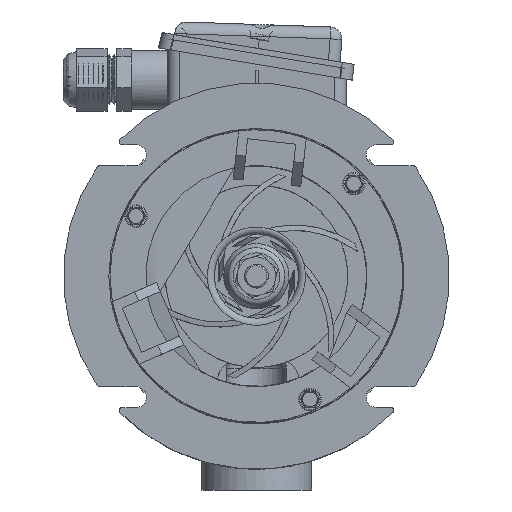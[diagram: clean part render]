
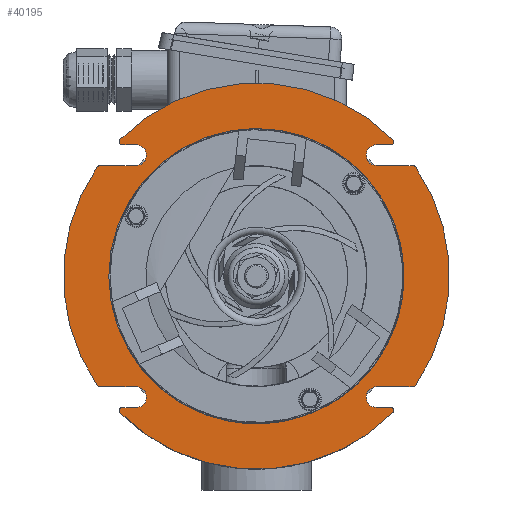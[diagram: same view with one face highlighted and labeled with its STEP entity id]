
A CAD part, front view. The second image highlights one B-rep face of the part: STEP entity #40195.
In plain terms, the highlighted planar face has unit normal (0, -1, 0).
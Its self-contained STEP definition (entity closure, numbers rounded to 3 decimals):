
#1936=FACE_BOUND('',#7091,.T.);
#2868=PLANE('',#43579);
#4795=FACE_OUTER_BOUND('',#7090,.T.);
#7090=EDGE_LOOP('',(#34024,#34025,#34026,#34027,#34028,#34029,#34030,#34031,
#34032,#34033,#34034,#34035,#34036,#34037,#34038,#34039,#34040,#34041,#34042,
#34043,#34044,#34045,#34046,#34047));
#7091=EDGE_LOOP('',(#34048,#34049));
#9865=LINE('',#84085,#12730);
#9868=LINE('',#84095,#12733);
#9869=LINE('',#84099,#12734);
#9870=LINE('',#84107,#12735);
#9871=LINE('',#84111,#12736);
#9872=LINE('',#84119,#12737);
#9873=LINE('',#84123,#12738);
#9874=LINE('',#84131,#12739);
#12730=VECTOR('',#52542,1.);
#12733=VECTOR('',#52551,1.);
#12734=VECTOR('',#52554,1.);
#12735=VECTOR('',#52561,1.);
#12736=VECTOR('',#52564,1.);
#12737=VECTOR('',#52571,1.);
#12738=VECTOR('',#52574,1.);
#12739=VECTOR('',#52581,1.);
#14591=CIRCLE('',#43577,0.1);
#14592=CIRCLE('',#43580,6.5);
#14593=CIRCLE('',#43581,0.1);
#14594=CIRCLE('',#43582,0.35);
#14595=CIRCLE('',#43583,0.1);
#14596=CIRCLE('',#43584,6.5);
#14597=CIRCLE('',#43585,0.1);
#14598=CIRCLE('',#43586,0.35);
#14599=CIRCLE('',#43587,0.1);
#14600=CIRCLE('',#43588,6.5);
#14601=CIRCLE('',#43589,0.1);
#14602=CIRCLE('',#43590,0.35);
#14603=CIRCLE('',#43591,0.1);
#14604=CIRCLE('',#43592,6.5);
#14605=CIRCLE('',#43593,0.1);
#14606=CIRCLE('',#43594,0.35);
#14607=CIRCLE('',#43595,4.97);
#14608=CIRCLE('',#43596,4.97);
#18036=VERTEX_POINT('',#84078);
#18037=VERTEX_POINT('',#84080);
#18038=VERTEX_POINT('',#84084);
#18040=VERTEX_POINT('',#84090);
#18041=VERTEX_POINT('',#84092);
#18042=VERTEX_POINT('',#84094);
#18043=VERTEX_POINT('',#84096);
#18044=VERTEX_POINT('',#84098);
#18045=VERTEX_POINT('',#84100);
#18046=VERTEX_POINT('',#84102);
#18047=VERTEX_POINT('',#84104);
#18048=VERTEX_POINT('',#84106);
#18049=VERTEX_POINT('',#84108);
#18050=VERTEX_POINT('',#84110);
#18051=VERTEX_POINT('',#84112);
#18052=VERTEX_POINT('',#84114);
#18053=VERTEX_POINT('',#84116);
#18054=VERTEX_POINT('',#84118);
#18055=VERTEX_POINT('',#84120);
#18056=VERTEX_POINT('',#84122);
#18057=VERTEX_POINT('',#84124);
#18058=VERTEX_POINT('',#84126);
#18059=VERTEX_POINT('',#84128);
#18060=VERTEX_POINT('',#84130);
#18061=VERTEX_POINT('',#84133);
#18062=VERTEX_POINT('',#84134);
#23483=EDGE_CURVE('',#18036,#18037,#14591,.T.);
#23485=EDGE_CURVE('',#18038,#18037,#9865,.T.);
#23488=EDGE_CURVE('',#18036,#18040,#14592,.T.);
#23489=EDGE_CURVE('',#18041,#18040,#14593,.T.);
#23490=EDGE_CURVE('',#18041,#18042,#9868,.T.);
#23491=EDGE_CURVE('',#18043,#18042,#14594,.T.);
#23492=EDGE_CURVE('',#18043,#18044,#9869,.T.);
#23493=EDGE_CURVE('',#18045,#18044,#14595,.T.);
#23494=EDGE_CURVE('',#18045,#18046,#14596,.T.);
#23495=EDGE_CURVE('',#18047,#18046,#14597,.T.);
#23496=EDGE_CURVE('',#18047,#18048,#9870,.T.);
#23497=EDGE_CURVE('',#18049,#18048,#14598,.T.);
#23498=EDGE_CURVE('',#18049,#18050,#9871,.T.);
#23499=EDGE_CURVE('',#18051,#18050,#14599,.T.);
#23500=EDGE_CURVE('',#18051,#18052,#14600,.T.);
#23501=EDGE_CURVE('',#18053,#18052,#14601,.T.);
#23502=EDGE_CURVE('',#18053,#18054,#9872,.T.);
#23503=EDGE_CURVE('',#18055,#18054,#14602,.T.);
#23504=EDGE_CURVE('',#18055,#18056,#9873,.T.);
#23505=EDGE_CURVE('',#18057,#18056,#14603,.T.);
#23506=EDGE_CURVE('',#18057,#18058,#14604,.T.);
#23507=EDGE_CURVE('',#18059,#18058,#14605,.T.);
#23508=EDGE_CURVE('',#18059,#18060,#9874,.T.);
#23509=EDGE_CURVE('',#18038,#18060,#14606,.T.);
#23510=EDGE_CURVE('',#18061,#18062,#14607,.T.);
#23511=EDGE_CURVE('',#18062,#18061,#14608,.T.);
#34024=ORIENTED_EDGE('',*,*,#23483,.F.);
#34025=ORIENTED_EDGE('',*,*,#23488,.T.);
#34026=ORIENTED_EDGE('',*,*,#23489,.F.);
#34027=ORIENTED_EDGE('',*,*,#23490,.T.);
#34028=ORIENTED_EDGE('',*,*,#23491,.F.);
#34029=ORIENTED_EDGE('',*,*,#23492,.T.);
#34030=ORIENTED_EDGE('',*,*,#23493,.F.);
#34031=ORIENTED_EDGE('',*,*,#23494,.T.);
#34032=ORIENTED_EDGE('',*,*,#23495,.F.);
#34033=ORIENTED_EDGE('',*,*,#23496,.T.);
#34034=ORIENTED_EDGE('',*,*,#23497,.F.);
#34035=ORIENTED_EDGE('',*,*,#23498,.T.);
#34036=ORIENTED_EDGE('',*,*,#23499,.F.);
#34037=ORIENTED_EDGE('',*,*,#23500,.T.);
#34038=ORIENTED_EDGE('',*,*,#23501,.F.);
#34039=ORIENTED_EDGE('',*,*,#23502,.T.);
#34040=ORIENTED_EDGE('',*,*,#23503,.F.);
#34041=ORIENTED_EDGE('',*,*,#23504,.T.);
#34042=ORIENTED_EDGE('',*,*,#23505,.F.);
#34043=ORIENTED_EDGE('',*,*,#23506,.T.);
#34044=ORIENTED_EDGE('',*,*,#23507,.F.);
#34045=ORIENTED_EDGE('',*,*,#23508,.T.);
#34046=ORIENTED_EDGE('',*,*,#23509,.F.);
#34047=ORIENTED_EDGE('',*,*,#23485,.T.);
#34048=ORIENTED_EDGE('',*,*,#23510,.F.);
#34049=ORIENTED_EDGE('',*,*,#23511,.F.);
#40195=ADVANCED_FACE('',(#4795,#1936),#2868,.T.);
#43577=AXIS2_PLACEMENT_3D('',#84081,#52537,#52538);
#43579=AXIS2_PLACEMENT_3D('',#84089,#52545,#52546);
#43580=AXIS2_PLACEMENT_3D('',#84091,#52547,#52548);
#43581=AXIS2_PLACEMENT_3D('',#84093,#52549,#52550);
#43582=AXIS2_PLACEMENT_3D('',#84097,#52552,#52553);
#43583=AXIS2_PLACEMENT_3D('',#84101,#52555,#52556);
#43584=AXIS2_PLACEMENT_3D('',#84103,#52557,#52558);
#43585=AXIS2_PLACEMENT_3D('',#84105,#52559,#52560);
#43586=AXIS2_PLACEMENT_3D('',#84109,#52562,#52563);
#43587=AXIS2_PLACEMENT_3D('',#84113,#52565,#52566);
#43588=AXIS2_PLACEMENT_3D('',#84115,#52567,#52568);
#43589=AXIS2_PLACEMENT_3D('',#84117,#52569,#52570);
#43590=AXIS2_PLACEMENT_3D('',#84121,#52572,#52573);
#43591=AXIS2_PLACEMENT_3D('',#84125,#52575,#52576);
#43592=AXIS2_PLACEMENT_3D('',#84127,#52577,#52578);
#43593=AXIS2_PLACEMENT_3D('',#84129,#52579,#52580);
#43594=AXIS2_PLACEMENT_3D('',#84132,#52582,#52583);
#43595=AXIS2_PLACEMENT_3D('',#84135,#52584,#52585);
#43596=AXIS2_PLACEMENT_3D('',#84136,#52586,#52587);
#52537=DIRECTION('center_axis',(0.,1.,0.));
#52538=DIRECTION('ref_axis',(0.466,0.,-0.885));
#52542=DIRECTION('',(1.,0.,0.));
#52545=DIRECTION('center_axis',(0.,-1.,0.));
#52546=DIRECTION('ref_axis',(0.,0.,-1.));
#52547=DIRECTION('center_axis',(0.,-1.,0.));
#52548=DIRECTION('ref_axis',(1.,0.,0.));
#52549=DIRECTION('center_axis',(0.,1.,0.));
#52550=DIRECTION('ref_axis',(0.466,0.,0.885));
#52551=DIRECTION('',(-1.,0.,0.));
#52552=DIRECTION('center_axis',(0.,-1.,0.));
#52553=DIRECTION('ref_axis',(-0.707,0.,0.707));
#52554=DIRECTION('',(1.,0.,0.));
#52555=DIRECTION('center_axis',(0.,1.,0.));
#52556=DIRECTION('ref_axis',(0.924,0.,-0.383));
#52557=DIRECTION('center_axis',(0.,-1.,0.));
#52558=DIRECTION('ref_axis',(1.,0.,0.));
#52559=DIRECTION('center_axis',(0.,1.,0.));
#52560=DIRECTION('ref_axis',(-0.924,0.,-0.383));
#52561=DIRECTION('',(1.,0.,0.));
#52562=DIRECTION('center_axis',(0.,-1.,0.));
#52563=DIRECTION('ref_axis',(0.707,0.,-0.707));
#52564=DIRECTION('',(-1.,0.,0.));
#52565=DIRECTION('center_axis',(0.,1.,0.));
#52566=DIRECTION('ref_axis',(-0.466,0.,0.885));
#52567=DIRECTION('center_axis',(0.,-1.,0.));
#52568=DIRECTION('ref_axis',(1.,0.,0.));
#52569=DIRECTION('center_axis',(0.,1.,0.));
#52570=DIRECTION('ref_axis',(-0.466,0.,-0.885));
#52571=DIRECTION('',(1.,0.,0.));
#52572=DIRECTION('center_axis',(0.,-1.,0.));
#52573=DIRECTION('ref_axis',(0.707,0.,-0.707));
#52574=DIRECTION('',(-1.,0.,0.));
#52575=DIRECTION('center_axis',(0.,1.,0.));
#52576=DIRECTION('ref_axis',(-0.924,0.,0.383));
#52577=DIRECTION('center_axis',(0.,-1.,0.));
#52578=DIRECTION('ref_axis',(1.,0.,0.));
#52579=DIRECTION('center_axis',(0.,1.,0.));
#52580=DIRECTION('ref_axis',(0.924,0.,0.383));
#52581=DIRECTION('',(-1.,0.,0.));
#52582=DIRECTION('center_axis',(0.,-1.,0.));
#52583=DIRECTION('ref_axis',(-0.707,0.,0.707));
#52584=DIRECTION('center_axis',(0.,-1.,0.));
#52585=DIRECTION('ref_axis',(1.,0.,0.));
#52586=DIRECTION('center_axis',(0.,-1.,0.));
#52587=DIRECTION('ref_axis',(1.,0.,0.));
#84078=CARTESIAN_POINT('',(5.357,0.223,-3.682));
#84080=CARTESIAN_POINT('',(5.274,0.223,-3.725));
#84081=CARTESIAN_POINT('Origin',(5.274,0.223,-3.625));
#84084=CARTESIAN_POINT('',(4.05,0.223,-3.725));
#84085=CARTESIAN_POINT('',(6.463,0.223,-3.725));
#84089=CARTESIAN_POINT('Origin',(4.97,0.223,0.));
#84090=CARTESIAN_POINT('',(5.357,0.223,3.682));
#84091=CARTESIAN_POINT('Origin',(0.,0.223,0.));
#84092=CARTESIAN_POINT('',(5.274,0.223,3.725));
#84093=CARTESIAN_POINT('Origin',(5.274,0.223,3.625));
#84094=CARTESIAN_POINT('',(4.05,0.223,3.725));
#84095=CARTESIAN_POINT('',(6.463,0.223,3.725));
#84096=CARTESIAN_POINT('',(4.05,0.223,4.425));
#84097=CARTESIAN_POINT('Origin',(4.05,0.223,4.075));
#84098=CARTESIAN_POINT('',(4.526,0.223,4.425));
#84099=CARTESIAN_POINT('',(4.335,0.223,4.425));
#84100=CARTESIAN_POINT('',(4.597,0.223,4.596));
#84101=CARTESIAN_POINT('Origin',(4.526,0.223,4.525));
#84102=CARTESIAN_POINT('',(-4.597,0.223,4.596));
#84103=CARTESIAN_POINT('Origin',(0.,0.223,0.));
#84104=CARTESIAN_POINT('',(-4.526,0.223,4.425));
#84105=CARTESIAN_POINT('Origin',(-4.526,0.223,4.525));
#84106=CARTESIAN_POINT('',(-4.05,0.223,4.425));
#84107=CARTESIAN_POINT('',(0.635,0.223,4.425));
#84108=CARTESIAN_POINT('',(-4.05,0.223,3.725));
#84109=CARTESIAN_POINT('Origin',(-4.05,0.223,4.075));
#84110=CARTESIAN_POINT('',(-5.274,0.223,3.725));
#84111=CARTESIAN_POINT('',(-1.493,0.223,3.725));
#84112=CARTESIAN_POINT('',(-5.357,0.223,3.682));
#84113=CARTESIAN_POINT('Origin',(-5.274,0.223,3.625));
#84114=CARTESIAN_POINT('',(-5.357,0.223,-3.682));
#84115=CARTESIAN_POINT('Origin',(0.,0.223,0.));
#84116=CARTESIAN_POINT('',(-5.274,0.223,-3.725));
#84117=CARTESIAN_POINT('Origin',(-5.274,0.223,-3.625));
#84118=CARTESIAN_POINT('',(-4.05,0.223,-3.725));
#84119=CARTESIAN_POINT('',(-1.493,0.223,-3.725));
#84120=CARTESIAN_POINT('',(-4.05,0.223,-4.425));
#84121=CARTESIAN_POINT('Origin',(-4.05,0.223,-4.075));
#84122=CARTESIAN_POINT('',(-4.526,0.223,-4.425));
#84123=CARTESIAN_POINT('',(0.635,0.223,-4.425));
#84124=CARTESIAN_POINT('',(-4.597,0.223,-4.596));
#84125=CARTESIAN_POINT('Origin',(-4.526,0.223,-4.525));
#84126=CARTESIAN_POINT('',(4.597,0.223,-4.596));
#84127=CARTESIAN_POINT('Origin',(0.,0.223,0.));
#84128=CARTESIAN_POINT('',(4.526,0.223,-4.425));
#84129=CARTESIAN_POINT('Origin',(4.526,0.223,-4.525));
#84130=CARTESIAN_POINT('',(4.05,0.223,-4.425));
#84131=CARTESIAN_POINT('',(4.335,0.223,-4.425));
#84132=CARTESIAN_POINT('Origin',(4.05,0.223,-4.075));
#84133=CARTESIAN_POINT('',(4.97,0.223,0.));
#84134=CARTESIAN_POINT('',(-4.97,0.223,0.));
#84135=CARTESIAN_POINT('Origin',(0.,0.223,0.));
#84136=CARTESIAN_POINT('Origin',(0.,0.223,0.));
